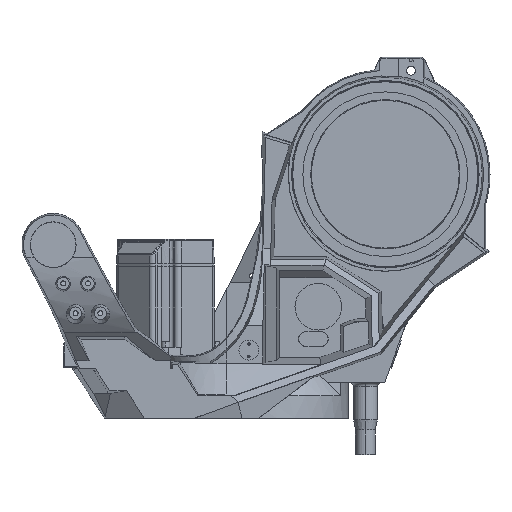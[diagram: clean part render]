
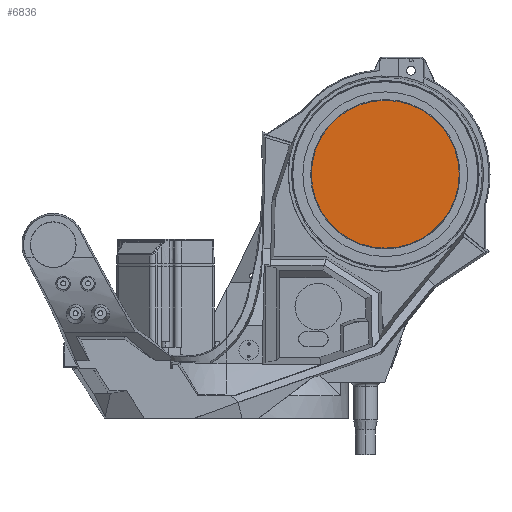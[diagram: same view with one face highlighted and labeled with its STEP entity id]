
A CAD part, front view. The second image highlights one B-rep face of the part: STEP entity #6836.
In plain terms, the highlighted planar face has unit normal (0, -1, 0).
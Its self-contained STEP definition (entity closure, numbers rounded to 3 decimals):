
#1140 = CIRCLE ( 'NONE', #12260, 149. ) ;
#5552 = DIRECTION ( 'NONE',  ( -1., 0., 0. ) ) ;
#5553 = DIRECTION ( 'NONE',  ( 0., 1., 0. ) ) ;
#5556 = PLANE ( 'NONE',  #11901 ) ;
#5559 = CARTESIAN_POINT ( 'NONE',  ( 320., -140., 929. ) ) ;
#6836 = ADVANCED_FACE ( 'NONE', ( #40463 ), #5556, .F. ) ;
#7746 = EDGE_CURVE ( 'NONE', #18081, #30378, #1140, .T. ) ;
#8827 = AXIS2_PLACEMENT_3D ( 'NONE', #28590, #28591, #28592 ) ;
#10014 = CIRCLE ( 'NONE', #8827, 149. ) ;
#11901 = AXIS2_PLACEMENT_3D ( 'NONE', #5559, #5553, #5552 ) ;
#12260 = AXIS2_PLACEMENT_3D ( 'NONE', #23648, #23650, #23652 ) ;
#16892 = EDGE_CURVE ( 'NONE', #30378, #18081, #10014, .T. ) ;
#18081 = VERTEX_POINT ( 'NONE', #40030 ) ;
#22269 = EDGE_LOOP ( 'NONE', ( #33206, #33293 ) ) ;
#23648 = CARTESIAN_POINT ( 'NONE',  ( 320., -140., 780. ) ) ;
#23650 = DIRECTION ( 'NONE',  ( 0., -1., 0. ) ) ;
#23652 = DIRECTION ( 'NONE',  ( 1., 0., 0. ) ) ;
#28590 = CARTESIAN_POINT ( 'NONE',  ( 320., -140., 780. ) ) ;
#28591 = DIRECTION ( 'NONE',  ( 0., -1., 0. ) ) ;
#28592 = DIRECTION ( 'NONE',  ( 1., 0., 0. ) ) ;
#30378 = VERTEX_POINT ( 'NONE', #31102 ) ;
#31102 = CARTESIAN_POINT ( 'NONE',  ( 469., -140., 780. ) ) ;
#33206 = ORIENTED_EDGE ( 'NONE', *, *, #16892, .T. ) ;
#33293 = ORIENTED_EDGE ( 'NONE', *, *, #7746, .T. ) ;
#40030 = CARTESIAN_POINT ( 'NONE',  ( 171., -140., 780. ) ) ;
#40463 = FACE_OUTER_BOUND ( 'NONE', #22269, .T. ) ;
